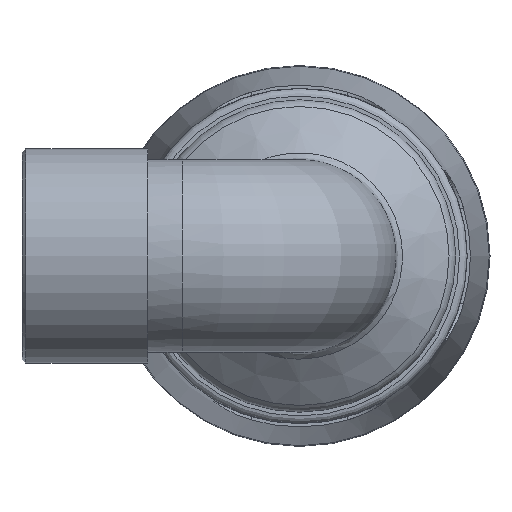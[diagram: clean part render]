
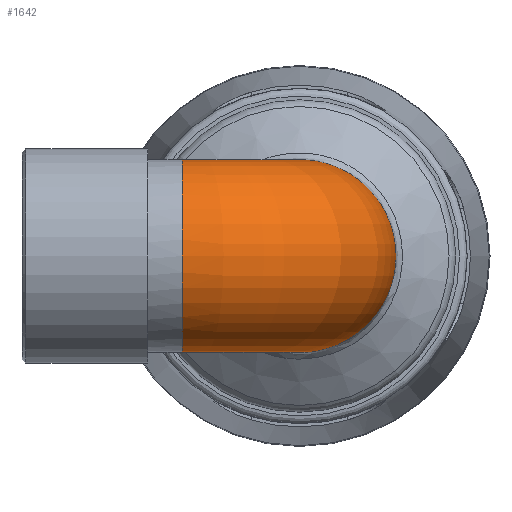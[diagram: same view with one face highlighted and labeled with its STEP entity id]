
A CAD part, left-side view. The second image highlights one B-rep face of the part: STEP entity #1642.
In plain terms, the highlighted toroidal (fillet/blend) face has major radius 21.56 mm and minor radius 17.72 mm.
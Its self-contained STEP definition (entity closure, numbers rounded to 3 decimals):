
#277=TOROIDAL_SURFACE('',#1796,21.56,17.72);
#328=FACE_OUTER_BOUND('',#453,.T.);
#453=EDGE_LOOP('',(#1195,#1196));
#562=B_SPLINE_CURVE_WITH_KNOTS('',3,(#2619,#2620,#2621,#2622,#2623,#2624,
#2625,#2626,#2627,#2628,#2629,#2630,#2631,#2632,#2633,#2634,#2635,#2636,
#2637,#2638,#2639,#2640,#2641,#2642,#2643),.UNSPECIFIED.,.F.,.F.,(4,1,1,
1,1,1,1,1,1,1,1,1,1,1,1,1,1,1,1,1,1,1,4),(-3.082,-3.027,
-2.972,-2.862,-2.642,-2.421,
-2.201,-1.761,-1.321,-1.027,
-0.44,0.147,0.44,1.027,
1.321,1.614,2.201,2.421,2.642,
2.862,2.972,3.027,3.082),
 .UNSPECIFIED.);
#669=CIRCLE('',#1791,17.72);
#728=VERTEX_POINT('',#2616);
#729=VERTEX_POINT('',#2618);
#890=EDGE_CURVE('',#728,#729,#562,.T.);
#932=EDGE_CURVE('',#728,#729,#669,.T.);
#1195=ORIENTED_EDGE('',*,*,#890,.F.);
#1196=ORIENTED_EDGE('',*,*,#932,.T.);
#1642=ADVANCED_FACE('',(#328),#277,.T.);
#1791=AXIS2_PLACEMENT_3D('',#2893,#2051,#2052);
#1796=AXIS2_PLACEMENT_3D('',#2901,#2061,#2062);
#2051=DIRECTION('center_axis',(0.,-1.,0.));
#2052=DIRECTION('ref_axis',(-1.,0.,0.));
#2061=DIRECTION('center_axis',(0.,0.,1.));
#2062=DIRECTION('ref_axis',(1.,0.,0.));
#2616=CARTESIAN_POINT('',(17.688,21.56,1.061));
#2618=CARTESIAN_POINT('',(17.688,21.56,-1.061));
#2619=CARTESIAN_POINT('Ctrl Pts',(17.688,21.56,1.061));
#2620=CARTESIAN_POINT('Ctrl Pts',(17.669,21.327,1.384));
#2621=CARTESIAN_POINT('Ctrl Pts',(17.663,20.749,2.026));
#2622=CARTESIAN_POINT('Ctrl Pts',(17.863,19.571,3.295));
#2623=CARTESIAN_POINT('Ctrl Pts',(18.529,17.896,5.48));
#2624=CARTESIAN_POINT('Ctrl Pts',(19.236,16.167,8.468));
#2625=CARTESIAN_POINT('Ctrl Pts',(19.617,13.735,11.676));
#2626=CARTESIAN_POINT('Ctrl Pts',(19.889,9.807,15.228));
#2627=CARTESIAN_POINT('Ctrl Pts',(20.011,3.673,17.949));
#2628=CARTESIAN_POINT('Ctrl Pts',(20.074,-3.472,17.783));
#2629=CARTESIAN_POINT('Ctrl Pts',(20.109,-10.812,14.775));
#2630=CARTESIAN_POINT('Ctrl Pts',(20.128,-16.955,8.049));
#2631=CARTESIAN_POINT('Ctrl Pts',(20.13,-18.274,-0.956));
#2632=CARTESIAN_POINT('Ctrl Pts',(20.124,-15.71,-9.392));
#2633=CARTESIAN_POINT('Ctrl Pts',(20.109,-10.821,-14.78));
#2634=CARTESIAN_POINT('Ctrl Pts',(20.079,-4.287,-17.443));
#2635=CARTESIAN_POINT('Ctrl Pts',(20.017,2.736,-18.136));
#2636=CARTESIAN_POINT('Ctrl Pts',(19.93,9.157,-15.83));
#2637=CARTESIAN_POINT('Ctrl Pts',(19.619,13.733,-11.674));
#2638=CARTESIAN_POINT('Ctrl Pts',(19.236,16.167,-8.471));
#2639=CARTESIAN_POINT('Ctrl Pts',(18.529,17.896,-5.479));
#2640=CARTESIAN_POINT('Ctrl Pts',(17.863,19.572,-3.295));
#2641=CARTESIAN_POINT('Ctrl Pts',(17.663,20.749,-2.026));
#2642=CARTESIAN_POINT('Ctrl Pts',(17.669,21.327,-1.384));
#2643=CARTESIAN_POINT('Ctrl Pts',(17.688,21.56,-1.061));
#2893=CARTESIAN_POINT('Origin',(0.,21.56,0.));
#2901=CARTESIAN_POINT('Origin',(21.56,21.56,0.));
